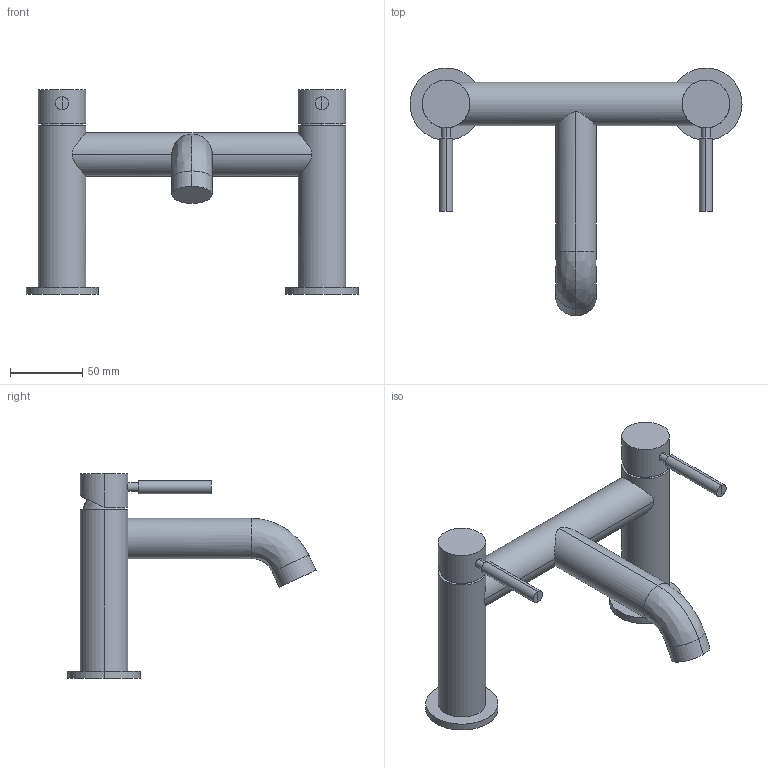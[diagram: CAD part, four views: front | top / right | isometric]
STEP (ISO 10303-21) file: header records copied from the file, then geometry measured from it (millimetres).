
FILE_DESCRIPTION(('FreeCAD Model'),'2;1');
FILE_NAME('Open CASCADE Shape Model','2024-11-19T16:16:55',('Author'),( ''),'Open CASCADE STEP processor 7.6','FreeCAD','Unknown');
FILE_SCHEMA(('AUTOMOTIVE_DESIGN { 1 0 10303 214 1 1 1 1 }'));
Length unit declared in the file: millimetre
Products named in the file (8): TopLevelAssembly; Połączona geometria bryłowa; Wyciąganie001; Połączona geometria bryłowa001; Połączona geometria bryłowa002; Wyciąganie002; Obrót profilu; Połączona geometria bryłowa003
Assembly tree (7 placements, depth 2):
  TopLevelAssembly
    Połączona geometria bryłowa
    Wyciąganie001
    Połączona geometria bryłowa001
    Połączona geometria bryłowa002
    Wyciąganie002
    Obrót profilu
    Połączona geometria bryłowa003
Bounding box: 230 x 171.82 x 142 mm (x, y, z)
Volume: 455101 mm3; surface area: 75814.3 mm2
Topology: 7 solids, 7 shells, 59 faces, 111 edges, 64 vertices
Faces by surface type: plane 27, cylinder 26, bspline 6
Entity records: 1927 total; most frequent: CARTESIAN_POINT 588, DIRECTION 265, ORIENTED_EDGE 214, AXIS2_PLACEMENT_3D 113, EDGE_CURVE 107, VERTEX_POINT 64, FACE_BOUND 61, EDGE_LOOP 61
